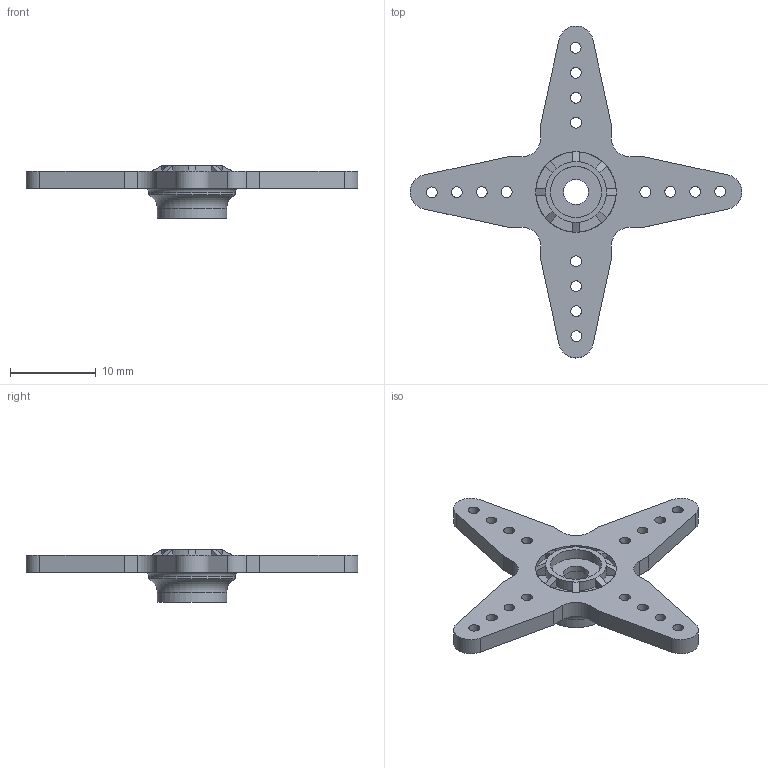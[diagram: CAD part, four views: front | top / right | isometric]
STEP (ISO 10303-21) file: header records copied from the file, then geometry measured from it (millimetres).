
FILE_DESCRIPTION(/* description */ ('STEP AP242','CAx-IF Rec.Pracs.---Representation and Presentation of Product Manufacturing Information (PMI)---4.0---2014-10-13','CAx-IF Rec.Pracs.---3D Tessellated Geometry---0.4---2014-09-14','2;1'),/* implementation_level */ '2;1');
FILE_NAME(/* name */ '65dac10ef3c31e2e3b9e1fde',/* time_stamp */ '2024-02-25T04:24:46Z',/* author */ (''),/* organization */ (''),/* preprocessor_version */ 'ST-DEVELOPER v19.4',/* originating_system */ ' ',/* authorisation */ ' ');
FILE_SCHEMA (('AP242_MANAGED_MODEL_BASED_3D_ENGINEERING_MIM_LF { 1 0 10303 442 1 1 4 }'));
Length unit declared in the file: metre
Products named in the file (1): Part 1
Bounding box: 38.81 x 38.81 x 6.17 mm (x, y, z)
Volume: 961.5 mm3; surface area: 1490.9 mm2
Topology: 1 solids, 1 shells, 94 faces, 286 edges, 198 vertices
Faces by surface type: plane 46, cylinder 45, torus 2, cone 1
Full cylindrical faces by diameter (mm): 1.27 x16, 2.921 x1, 5.969 x2, 8.103 x1, 10.16 x1
Entity records: 3262 total; most frequent: CARTESIAN_POINT 587, DIRECTION 578, ORIENTED_EDGE 524, EDGE_CURVE 262, AXIS2_PLACEMENT_3D 237, VERTEX_POINT 198, EDGE_LOOP 156, FACE_BOUND 156
